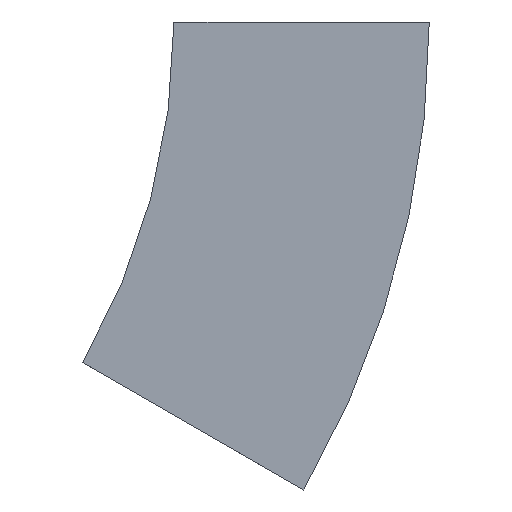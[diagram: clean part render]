
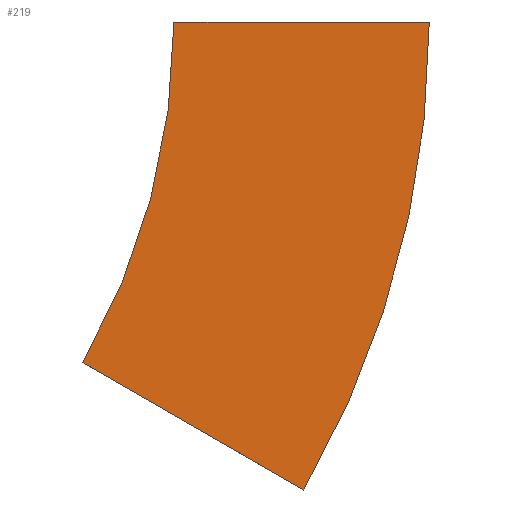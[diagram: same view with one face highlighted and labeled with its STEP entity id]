
A CAD part, left-side view. The second image highlights one B-rep face of the part: STEP entity #219.
In plain terms, the highlighted planar face has unit normal (-1, 0, 0) as drawn and (1, 0, 0) by its records, which use the part's own axes.
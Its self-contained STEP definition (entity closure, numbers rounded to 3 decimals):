
#10 = CARTESIAN_POINT ( 'NONE',  ( 0., -112.5, 0. ) ) ;
#18 = VERTEX_POINT ( 'NONE', #315 ) ;
#29 = CIRCLE ( 'NONE', #118, 412.5 ) ;
#54 = EDGE_CURVE ( 'NONE', #454, #18, #301, .T. ) ;
#56 = CARTESIAN_POINT ( 'NONE',  ( 0., -112.5, 0. ) ) ;
#62 = PLANE ( 'NONE',  #387 ) ;
#64 = DIRECTION ( 'NONE',  ( 0., 0., 1. ) ) ;
#90 = EDGE_CURVE ( 'NONE', #429, #426, #29, .T. ) ;
#108 = FACE_OUTER_BOUND ( 'NONE', #289, .T. ) ;
#118 = AXIS2_PLACEMENT_3D ( 'NONE', #531, #235, #240 ) ;
#159 = CARTESIAN_POINT ( 'NONE',  ( 0., -57.235, -206.25 ) ) ;
#214 = ORIENTED_EDGE ( 'NONE', *, *, #90, .T. ) ;
#219 = ADVANCED_FACE ( 'NONE', ( #108 ), #62, .F. ) ;
#235 = DIRECTION ( 'NONE',  ( 1., 0., 0. ) ) ;
#239 = CARTESIAN_POINT ( 'NONE',  ( 0., -57.235, -206.25 ) ) ;
#240 = DIRECTION ( 'NONE',  ( 0., -1., 0. ) ) ;
#244 = CARTESIAN_POINT ( 'NONE',  ( 0., -112.5, 0. ) ) ;
#255 = DIRECTION ( 'NONE',  ( 1., 0., 0. ) ) ;
#263 = ORIENTED_EDGE ( 'NONE', *, *, #477, .F. ) ;
#289 = EDGE_LOOP ( 'NONE', ( #341, #263, #214, #562 ) ) ;
#301 = CIRCLE ( 'NONE', #368, 300. ) ;
#302 = CARTESIAN_POINT ( 'NONE',  ( 0., 300., 0. ) ) ;
#315 = CARTESIAN_POINT ( 'NONE',  ( 0., 40.192, -150. ) ) ;
#339 = DIRECTION ( 'NONE',  ( -1., 0., 0. ) ) ;
#341 = ORIENTED_EDGE ( 'NONE', *, *, #54, .F. ) ;
#364 = DIRECTION ( 'NONE',  ( 0., 1., 0. ) ) ;
#368 = AXIS2_PLACEMENT_3D ( 'NONE', #302, #255, #557 ) ;
#382 = VECTOR ( 'NONE', #364, 1000. ) ;
#387 = AXIS2_PLACEMENT_3D ( 'NONE', #244, #339, #64 ) ;
#420 = EDGE_CURVE ( 'NONE', #426, #18, #425, .T. ) ;
#425 = LINE ( 'NONE', #159, #524 ) ;
#426 = VERTEX_POINT ( 'NONE', #239 ) ;
#429 = VERTEX_POINT ( 'NONE', #56 ) ;
#443 = DIRECTION ( 'NONE',  ( 0., 0.866, 0.5 ) ) ;
#446 = LINE ( 'NONE', #10, #382 ) ;
#454 = VERTEX_POINT ( 'NONE', #496 ) ;
#477 = EDGE_CURVE ( 'NONE', #429, #454, #446, .T. ) ;
#496 = CARTESIAN_POINT ( 'NONE',  ( 0., 0., 0. ) ) ;
#524 = VECTOR ( 'NONE', #443, 1000. ) ;
#531 = CARTESIAN_POINT ( 'NONE',  ( 0., 300., 0. ) ) ;
#557 = DIRECTION ( 'NONE',  ( 0., -1., 0. ) ) ;
#562 = ORIENTED_EDGE ( 'NONE', *, *, #420, .T. ) ;
